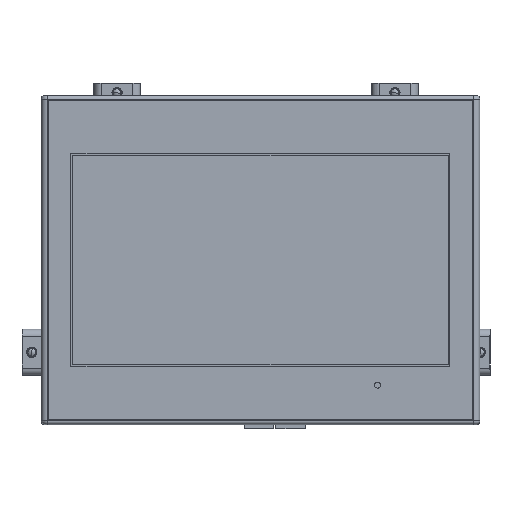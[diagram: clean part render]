
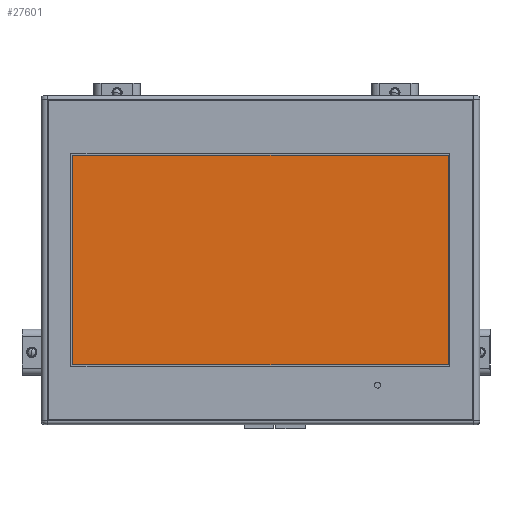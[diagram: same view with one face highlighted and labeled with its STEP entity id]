
A CAD part, top view. The second image highlights one B-rep face of the part: STEP entity #27601.
In plain terms, the highlighted planar face has unit normal (0, 0, 1).
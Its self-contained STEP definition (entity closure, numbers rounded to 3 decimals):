
#7937 = CARTESIAN_POINT ( 'NONE',  ( 158., 9.3, 6.7 ) ) ;
#10081 = DIRECTION ( 'NONE',  ( 0., 1., 0. ) ) ;
#14627 = VERTEX_POINT ( 'NONE', #67927 ) ;
#15106 = EDGE_CURVE ( 'NONE', #14627, #120276, #63338, .T. ) ;
#16949 = VERTEX_POINT ( 'NONE', #34649 ) ;
#21121 = LINE ( 'NONE', #70941, #81775 ) ;
#26533 = DIRECTION ( 'NONE',  ( 0., 0., 1. ) ) ;
#27601 = ADVANCED_FACE ( 'NONE', ( #74955 ), #50389, .T. ) ;
#30688 = DIRECTION ( 'NONE',  ( -1., 0., 0. ) ) ;
#34649 = CARTESIAN_POINT ( 'NONE',  ( 3.92, 9.3, 6.7 ) ) ;
#40074 = LINE ( 'NONE', #48559, #72276 ) ;
#46748 = ORIENTED_EDGE ( 'NONE', *, *, #15106, .T. ) ;
#48559 = CARTESIAN_POINT ( 'NONE',  ( 3.92, 95.22, 6.7 ) ) ;
#48669 = VERTEX_POINT ( 'NONE', #7937 ) ;
#50389 = PLANE ( 'NONE',  #69555 ) ;
#53450 = EDGE_LOOP ( 'NONE', ( #99142, #46748, #65352, #59512 ) ) ;
#59512 = ORIENTED_EDGE ( 'NONE', *, *, #66647, .T. ) ;
#63338 = LINE ( 'NONE', #128016, #123895 ) ;
#65352 = ORIENTED_EDGE ( 'NONE', *, *, #67766, .T. ) ;
#66647 = EDGE_CURVE ( 'NONE', #16949, #48669, #106351, .T. ) ;
#67766 = EDGE_CURVE ( 'NONE', #120276, #16949, #40074, .T. ) ;
#67927 = CARTESIAN_POINT ( 'NONE',  ( 158., 95.22, 6.7 ) ) ;
#69555 = AXIS2_PLACEMENT_3D ( 'NONE', #99075, #26533, #111216 ) ;
#70941 = CARTESIAN_POINT ( 'NONE',  ( 158., 95.22, 6.7 ) ) ;
#72276 = VECTOR ( 'NONE', #121022, 1000. ) ;
#74955 = FACE_OUTER_BOUND ( 'NONE', #53450, .T. ) ;
#78025 = VECTOR ( 'NONE', #150007, 1000. ) ;
#81775 = VECTOR ( 'NONE', #10081, 1000. ) ;
#89822 = CARTESIAN_POINT ( 'NONE',  ( 3.92, 9.3, 6.7 ) ) ;
#96542 = EDGE_CURVE ( 'NONE', #48669, #14627, #21121, .T. ) ;
#99075 = CARTESIAN_POINT ( 'NONE',  ( 158., 9.3, 6.7 ) ) ;
#99142 = ORIENTED_EDGE ( 'NONE', *, *, #96542, .T. ) ;
#106351 = LINE ( 'NONE', #89822, #78025 ) ;
#111216 = DIRECTION ( 'NONE',  ( 1., 0., 0. ) ) ;
#113223 = CARTESIAN_POINT ( 'NONE',  ( 3.92, 95.22, 6.7 ) ) ;
#120276 = VERTEX_POINT ( 'NONE', #113223 ) ;
#121022 = DIRECTION ( 'NONE',  ( 0., -1., 0. ) ) ;
#123895 = VECTOR ( 'NONE', #30688, 1000. ) ;
#128016 = CARTESIAN_POINT ( 'NONE',  ( 3.92, 95.22, 6.7 ) ) ;
#150007 = DIRECTION ( 'NONE',  ( 1., 0., 0. ) ) ;
